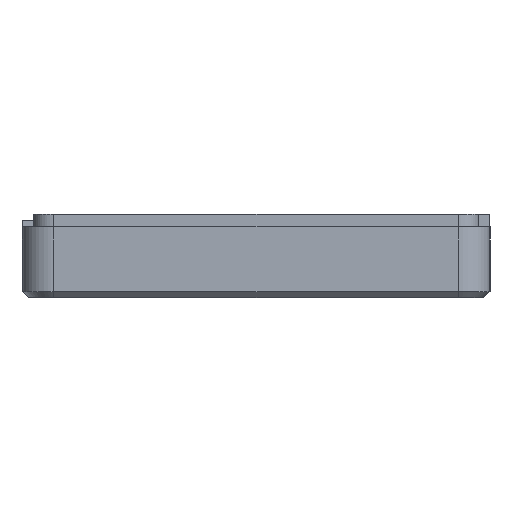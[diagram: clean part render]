
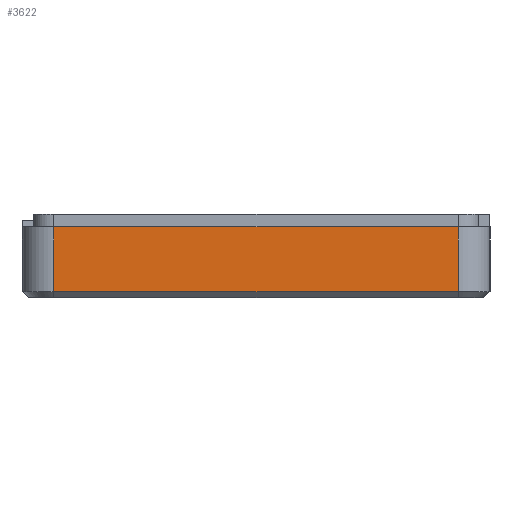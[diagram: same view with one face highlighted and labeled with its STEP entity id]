
A CAD part, left-side view. The second image highlights one B-rep face of the part: STEP entity #3622.
In plain terms, the highlighted free-form (B-spline) face has degree [1, 1] with [2, 2] control points.
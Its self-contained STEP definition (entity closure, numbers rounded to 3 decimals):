
#67 = ( BOUNDED_SURFACE() B_SPLINE_SURFACE(2,1,(
    (#68,#69)
    ,(#70,#71)
,(#72,#73
  )),.UNSPECIFIED.,.F.,.F.,.F.) B_SPLINE_SURFACE_WITH_KNOTS((3,3),(2,2),
  (0.,1.571),(0.6,6.677),.PIECEWISE_BEZIER_KNOTS.) 
GEOMETRIC_REPRESENTATION_ITEM() RATIONAL_B_SPLINE_SURFACE((
    (1.,1.)
    ,(0.707,0.707)
,(1.,1.))) REPRESENTATION_ITEM('') SURFACE() );
#68 = CARTESIAN_POINT('',(1.,-42.,-5.877));
#69 = CARTESIAN_POINT('',(1.,-42.,0.2));
#70 = CARTESIAN_POINT('',(-2.,-42.,-5.877));
#71 = CARTESIAN_POINT('',(-2.,-42.,0.2));
#72 = CARTESIAN_POINT('',(-2.,-39.,-5.877));
#73 = CARTESIAN_POINT('',(-2.,-39.,0.2));
#95 = B_SPLINE_SURFACE_WITH_KNOTS('',1,1,(
    (#96,#97)
    ,(#98,#99
    )),.UNSPECIFIED.,.F.,.F.,.F.,(2,2),(2,2),(-96.4,-83.701),(-22.,22.),
  .PIECEWISE_BEZIER_KNOTS.);
#96 = CARTESIAN_POINT('',(-2.,-42.,0.2));
#97 = CARTESIAN_POINT('',(-2.,2.,0.2));
#98 = CARTESIAN_POINT('',(10.699,-42.,0.2));
#99 = CARTESIAN_POINT('',(10.699,2.,0.2));
#890 = VERTEX_POINT('',#891);
#891 = CARTESIAN_POINT('',(-2.,-39.,-5.877));
#912 = EDGE_CURVE('',#890,#913,#915,.T.);
#913 = VERTEX_POINT('',#914);
#914 = CARTESIAN_POINT('',(-2.,-39.,0.2));
#915 = SURFACE_CURVE('',#916,(#919,#926),.PCURVE_S1.);
#916 = B_SPLINE_CURVE_WITH_KNOTS('',1,(#917,#918),.UNSPECIFIED.,.F.,.F.,
  (2,2),(0.6,6.677),.PIECEWISE_BEZIER_KNOTS.);
#917 = CARTESIAN_POINT('',(-2.,-39.,-5.877));
#918 = CARTESIAN_POINT('',(-2.,-39.,0.2));
#919 = PCURVE('',#67,#920);
#920 = DEFINITIONAL_REPRESENTATION('',(#921),#925);
#921 = B_SPLINE_CURVE_WITH_KNOTS('',2,(#922,#923,#924),.UNSPECIFIED.,.F.
  ,.F.,(3,3),(0.6,6.677),.PIECEWISE_BEZIER_KNOTS.);
#922 = CARTESIAN_POINT('',(1.571,0.6));
#923 = CARTESIAN_POINT('',(1.571,3.639));
#924 = CARTESIAN_POINT('',(1.571,6.677));
#925 = ( GEOMETRIC_REPRESENTATION_CONTEXT(2) 
PARAMETRIC_REPRESENTATION_CONTEXT() REPRESENTATION_CONTEXT('2D SPACE',''
  ) );
#926 = PCURVE('',#927,#932);
#927 = B_SPLINE_SURFACE_WITH_KNOTS('',1,1,(
    (#928,#929)
    ,(#930,#931
    )),.UNSPECIFIED.,.F.,.F.,.F.,(2,2),(2,2),(3.,41.),(-6.677,-0.6),
  .PIECEWISE_BEZIER_KNOTS.);
#928 = CARTESIAN_POINT('',(-2.,-1.,0.2));
#929 = CARTESIAN_POINT('',(-2.,-1.,-5.877));
#930 = CARTESIAN_POINT('',(-2.,-39.,0.2));
#931 = CARTESIAN_POINT('',(-2.,-39.,-5.877));
#932 = DEFINITIONAL_REPRESENTATION('',(#933),#936);
#933 = B_SPLINE_CURVE_WITH_KNOTS('',1,(#934,#935),.UNSPECIFIED.,.F.,.F.,
  (2,2),(0.6,6.677),.PIECEWISE_BEZIER_KNOTS.);
#934 = CARTESIAN_POINT('',(41.,-0.6));
#935 = CARTESIAN_POINT('',(41.,-6.677));
#936 = ( GEOMETRIC_REPRESENTATION_CONTEXT(2) 
PARAMETRIC_REPRESENTATION_CONTEXT() REPRESENTATION_CONTEXT('2D SPACE',''
  ) );
#965 = VERTEX_POINT('',#966);
#966 = CARTESIAN_POINT('',(-2.,-1.,0.2));
#980 = ( BOUNDED_SURFACE() B_SPLINE_SURFACE(2,1,(
    (#981,#982)
    ,(#983,#984)
,(#985,#986
    )),.UNSPECIFIED.,.F.,.F.,.F.) B_SPLINE_SURFACE_WITH_KNOTS((3,3),(2,2
    ),(0.,1.571),(0.6,6.677),.PIECEWISE_BEZIER_KNOTS.) 
GEOMETRIC_REPRESENTATION_ITEM() RATIONAL_B_SPLINE_SURFACE((
    (1.,1.)
    ,(0.707,0.707)
,(1.,1.))) REPRESENTATION_ITEM('') SURFACE() );
#981 = CARTESIAN_POINT('',(1.,2.,-5.877));
#982 = CARTESIAN_POINT('',(1.,2.,0.2));
#983 = CARTESIAN_POINT('',(-2.,2.,-5.877));
#984 = CARTESIAN_POINT('',(-2.,2.,0.2));
#985 = CARTESIAN_POINT('',(-2.,-1.,-5.877));
#986 = CARTESIAN_POINT('',(-2.,-1.,0.2));
#994 = EDGE_CURVE('',#965,#913,#995,.T.);
#995 = SURFACE_CURVE('',#996,(#999,#1005),.PCURVE_S1.);
#996 = B_SPLINE_CURVE_WITH_KNOTS('',1,(#997,#998),.UNSPECIFIED.,.F.,.F.,
  (2,2),(-8.,30.),.PIECEWISE_BEZIER_KNOTS.);
#997 = CARTESIAN_POINT('',(-2.,-1.,0.2));
#998 = CARTESIAN_POINT('',(-2.,-39.,0.2));
#999 = PCURVE('',#95,#1000);
#1000 = DEFINITIONAL_REPRESENTATION('',(#1001),#1004);
#1001 = B_SPLINE_CURVE_WITH_KNOTS('',1,(#1002,#1003),.UNSPECIFIED.,.F.,
  .F.,(2,2),(-8.,30.),.PIECEWISE_BEZIER_KNOTS.);
#1002 = CARTESIAN_POINT('',(-96.4,19.));
#1003 = CARTESIAN_POINT('',(-96.4,-19.));
#1004 = ( GEOMETRIC_REPRESENTATION_CONTEXT(2) 
PARAMETRIC_REPRESENTATION_CONTEXT() REPRESENTATION_CONTEXT('2D SPACE',''
  ) );
#1005 = PCURVE('',#927,#1006);
#1006 = DEFINITIONAL_REPRESENTATION('',(#1007),#1010);
#1007 = B_SPLINE_CURVE_WITH_KNOTS('',1,(#1008,#1009),.UNSPECIFIED.,.F.,
  .F.,(2,2),(-8.,30.),.PIECEWISE_BEZIER_KNOTS.);
#1008 = CARTESIAN_POINT('',(3.,-6.677));
#1009 = CARTESIAN_POINT('',(41.,-6.677));
#1010 = ( GEOMETRIC_REPRESENTATION_CONTEXT(2) 
PARAMETRIC_REPRESENTATION_CONTEXT() REPRESENTATION_CONTEXT('2D SPACE',''
  ) );
#3200 = B_SPLINE_SURFACE_WITH_KNOTS('',1,1,(
    (#3201,#3202)
    ,(#3203,#3204
    )),.UNSPECIFIED.,.F.,.F.,.F.,(2,2),(2,2),(0.,38.),(
    -0.424,0.424),.PIECEWISE_BEZIER_KNOTS.);
#3201 = CARTESIAN_POINT('',(-2.,-1.,-5.877));
#3202 = CARTESIAN_POINT('',(-1.4,-1.,-6.477));
#3203 = CARTESIAN_POINT('',(-2.,-39.,-5.877));
#3204 = CARTESIAN_POINT('',(-1.4,-39.,-6.477));
#3622 = ADVANCED_FACE('',(#3623),#927,.F.);
#3623 = FACE_BOUND('',#3624,.F.);
#3624 = EDGE_LOOP('',(#3625,#3645,#3664,#3665));
#3625 = ORIENTED_EDGE('',*,*,#3626,.F.);
#3626 = EDGE_CURVE('',#3627,#890,#3629,.T.);
#3627 = VERTEX_POINT('',#3628);
#3628 = CARTESIAN_POINT('',(-2.,-1.,-5.877));
#3629 = SURFACE_CURVE('',#3630,(#3633,#3639),.PCURVE_S1.);
#3630 = B_SPLINE_CURVE_WITH_KNOTS('',1,(#3631,#3632),.UNSPECIFIED.,.F.,
  .F.,(2,2),(0.,38.),.PIECEWISE_BEZIER_KNOTS.);
#3631 = CARTESIAN_POINT('',(-2.,-1.,-5.877));
#3632 = CARTESIAN_POINT('',(-2.,-39.,-5.877));
#3633 = PCURVE('',#927,#3634);
#3634 = DEFINITIONAL_REPRESENTATION('',(#3635),#3638);
#3635 = B_SPLINE_CURVE_WITH_KNOTS('',1,(#3636,#3637),.UNSPECIFIED.,.F.,
  .F.,(2,2),(0.,38.),.PIECEWISE_BEZIER_KNOTS.);
#3636 = CARTESIAN_POINT('',(3.,-0.6));
#3637 = CARTESIAN_POINT('',(41.,-0.6));
#3638 = ( GEOMETRIC_REPRESENTATION_CONTEXT(2) 
PARAMETRIC_REPRESENTATION_CONTEXT() REPRESENTATION_CONTEXT('2D SPACE',''
  ) );
#3639 = PCURVE('',#3200,#3640);
#3640 = DEFINITIONAL_REPRESENTATION('',(#3641),#3644);
#3641 = B_SPLINE_CURVE_WITH_KNOTS('',1,(#3642,#3643),.UNSPECIFIED.,.F.,
  .F.,(2,2),(0.,38.),.PIECEWISE_BEZIER_KNOTS.);
#3642 = CARTESIAN_POINT('',(0.,-0.424));
#3643 = CARTESIAN_POINT('',(38.,-0.424));
#3644 = ( GEOMETRIC_REPRESENTATION_CONTEXT(2) 
PARAMETRIC_REPRESENTATION_CONTEXT() REPRESENTATION_CONTEXT('2D SPACE',''
  ) );
#3645 = ORIENTED_EDGE('',*,*,#3646,.T.);
#3646 = EDGE_CURVE('',#3627,#965,#3647,.T.);
#3647 = SURFACE_CURVE('',#3648,(#3651,#3657),.PCURVE_S1.);
#3648 = B_SPLINE_CURVE_WITH_KNOTS('',1,(#3649,#3650),.UNSPECIFIED.,.F.,
  .F.,(2,2),(0.6,6.677),.PIECEWISE_BEZIER_KNOTS.);
#3649 = CARTESIAN_POINT('',(-2.,-1.,-5.877));
#3650 = CARTESIAN_POINT('',(-2.,-1.,0.2));
#3651 = PCURVE('',#927,#3652);
#3652 = DEFINITIONAL_REPRESENTATION('',(#3653),#3656);
#3653 = B_SPLINE_CURVE_WITH_KNOTS('',1,(#3654,#3655),.UNSPECIFIED.,.F.,
  .F.,(2,2),(0.6,6.677),.PIECEWISE_BEZIER_KNOTS.);
#3654 = CARTESIAN_POINT('',(3.,-0.6));
#3655 = CARTESIAN_POINT('',(3.,-6.677));
#3656 = ( GEOMETRIC_REPRESENTATION_CONTEXT(2) 
PARAMETRIC_REPRESENTATION_CONTEXT() REPRESENTATION_CONTEXT('2D SPACE',''
  ) );
#3657 = PCURVE('',#980,#3658);
#3658 = DEFINITIONAL_REPRESENTATION('',(#3659),#3663);
#3659 = B_SPLINE_CURVE_WITH_KNOTS('',2,(#3660,#3661,#3662),
  .UNSPECIFIED.,.F.,.F.,(3,3),(0.6,6.677),.PIECEWISE_BEZIER_KNOTS.);
#3660 = CARTESIAN_POINT('',(1.571,0.6));
#3661 = CARTESIAN_POINT('',(1.571,3.639));
#3662 = CARTESIAN_POINT('',(1.571,6.677));
#3663 = ( GEOMETRIC_REPRESENTATION_CONTEXT(2) 
PARAMETRIC_REPRESENTATION_CONTEXT() REPRESENTATION_CONTEXT('2D SPACE',''
  ) );
#3664 = ORIENTED_EDGE('',*,*,#994,.T.);
#3665 = ORIENTED_EDGE('',*,*,#912,.F.);
